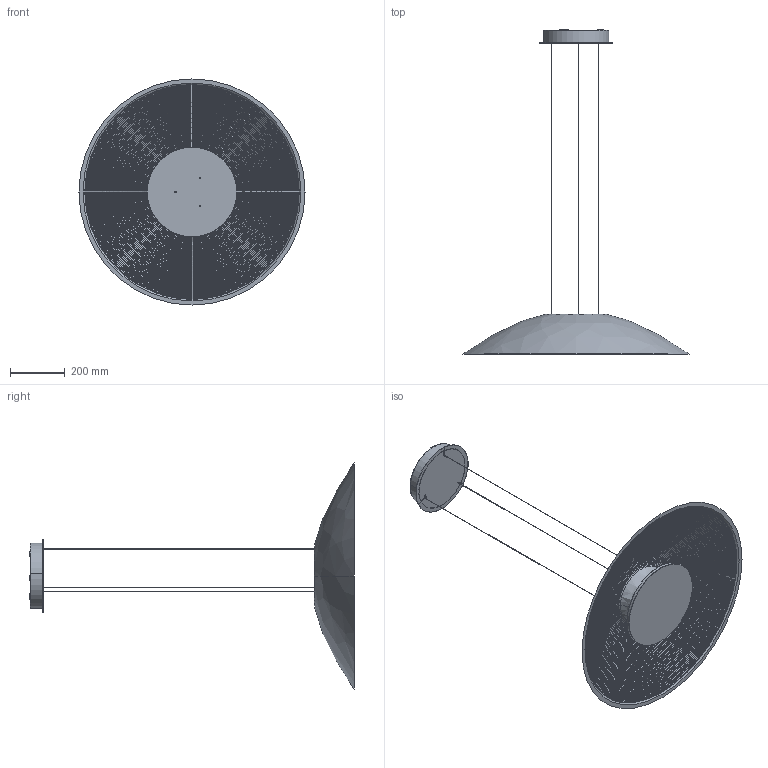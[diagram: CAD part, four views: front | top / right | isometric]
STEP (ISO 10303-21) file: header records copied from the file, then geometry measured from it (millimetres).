
FILE_DESCRIPTION (( 'STEP AP214' ), '1' );
FILE_NAME ('3273 Astre.STEP', '2020-10-15T15:18:55', ( '' ), ( '' ), 'SwSTEP 2.0', 'SolidWorks 2020', '' );
FILE_SCHEMA (( 'AUTOMOTIVE_DESIGN' ));
Length unit declared in the file: millimetre
Products named in the file (16): 3273 Astre; Discus 225mm; 01X-L02-0P.stp; Disque 3F; Disque dissipateur discus; Couvercle trappe; Equipement; Fond CP; Discus 300mm; 01V-M02-02.stp; Corps 3273; 01VYM0UY01.stp; 01VYM0RY02.stp; Marbre; Câble inox 1mm; 01V-M03-02.stp
Assembly tree (20 placements, depth 5):
  3273 Astre
    Corps 3273
    Equipement
      Disque dissipateur discus
      Discus 225mm
        01VYM0RY02.stp
          01V-M02-02.stp
          01X-L02-0P.stp  x2
      Discus 300mm
        01VYM0UY01.stp
          01V-M03-02.stp
          01X-L02-0P.stp  x2
    Marbre
    Couvercle trappe
    Fond CP
    Disque 3F
    Câble inox 1mm  x3
Bounding box: 830 x 1190.4 x 830 mm (x, y, z)
Volume: 9205764.4 mm3; surface area: 2284814 mm2
Topology: 17 solids, 17 shells, 2277 faces, 5511 edges, 3524 vertices
Faces by surface type: plane 1345, bspline 446, cylinder 438, torus 24, cone 18, sphere 6
Entity records: 59863 total; most frequent: CARTESIAN_POINT 21045, ORIENTED_EDGE 7984, DIRECTION 6880, EDGE_CURVE 3992, LINE 2570, VECTOR 2570, VERTEX_POINT 2530, AXIS2_PLACEMENT_3D 2155
